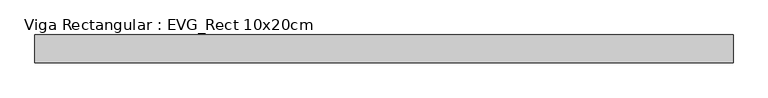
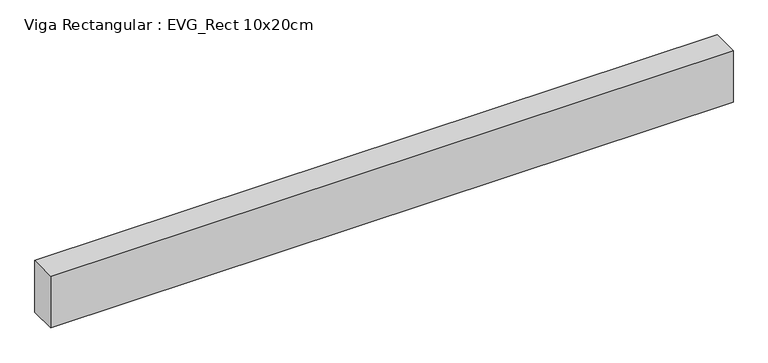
"""IFC4 building model written with IfcOpenShell, lengths in millimetres: beam geometry, Viga Rectangular : EVG_Rect 10x20cm."""

from ifc_helpers import new_model, si_unit, frame, origin, place, context, project, spatial, polyline, outline, extrude, source, transform, mapped, element, save


def viga_rectangular_evg_rect_10x20cm_96cb2f61(model_context):
    return source(origin(), model_context, "Body", "SweptSolid", [
        extrude(outline(polyline([(1250.0, 50.0), (1250.0, -50.0), (-1250.0, -50.0), (-1250.0, 50.0), (1250.0, 50.0)])), frame((0.0, 0.0, -200.0), z_axis=(0.0, 0.0, 1.0), x_axis=(1.0, 0.0, 0.0)), (0.0, 0.0, 1.0), 200.0),
    ])


if __name__ == "__main__":
    model = new_model("IFC4")
    model_context = context("Model", 3, world=origin())
    ifc_project = project(units=[si_unit("LENGTHUNIT", "METRE", prefix="MILLI")], contexts=[model_context])
    site = spatial("IfcSite", under=ifc_project)
    building = spatial("IfcBuilding", under=site)
    placement = place(None, origin())
    viga_rectangular_evg_rect_10x20cm_shape = viga_rectangular_evg_rect_10x20cm_96cb2f61(model_context)
    element("IfcBeam", 1, ObjectType="Viga Rectangular : EVG_Rect 10x20cm", at=placement, inside=building, context=model_context, shape_type="MappedRepresentation", body=[
        mapped(viga_rectangular_evg_rect_10x20cm_shape, transform((0.0, 0.0, 0.0), x_axis=(1.0, 0.0, 0.0), y_axis=(0.0, 1.0, 0.0), z_axis=(0.0, 0.0, 1.0))),
    ])
    save(model, "model.ifc")
